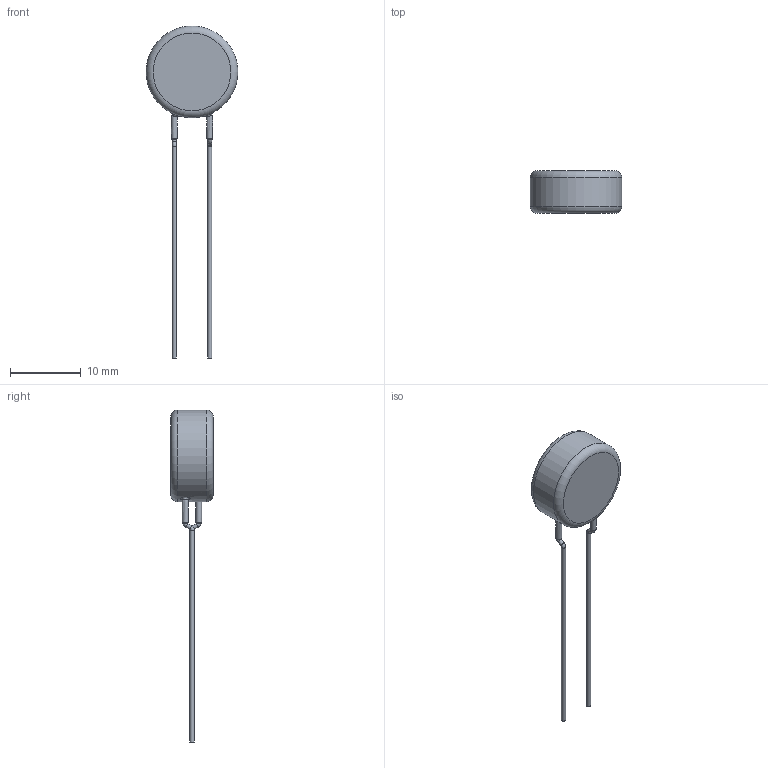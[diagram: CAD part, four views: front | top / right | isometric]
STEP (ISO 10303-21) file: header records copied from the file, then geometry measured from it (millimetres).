
FILE_DESCRIPTION(/* description */ (''),/* implementation_level */ '2;1');
FILE_NAME(/* name */ 'I:\Marketing\M6t1\3D-Models\Zchng-Werk-3\Upload for homepage\BCC\AY2\Inline Dia 0,6 LS 5\AY2682K51Y5VS63V5.stp',/* time_stamp */ '2020-11-06T09:04:04+01:00',/* author */ ('truediger'),/* organization */ (''),/* preprocessor_version */ 'ST-DEVELOPER v18',/* originating_system */ 'Autodesk Inventor 2020',/* authorisation */ '');
FILE_SCHEMA (('AUTOMOTIVE_DESIGN { 1 0 10303 214 3 1 1 }'));
Length unit declared in the file: millimetre
Products named in the file (1): Bauteil1
Bounding box: 13 x 6 x 47 mm (x, y, z)
Volume: 801.1 mm3; surface area: 610.5 mm2
Topology: 1 solids, 1 shells, 27 faces, 71 edges, 50 vertices
Faces by surface type: cylinder 9, torus 6, plane 6, bspline 6
Full cylindrical faces by diameter (mm): 0.6 x4, 13 x1
Entity records: 2460 total; most frequent: CARTESIAN_POINT 1743, ORIENTED_EDGE 142, DIRECTION 133, EDGE_CURVE 71, AXIS2_PLACEMENT_3D 64, VERTEX_POINT 50, CIRCLE 40, EDGE_LOOP 31
